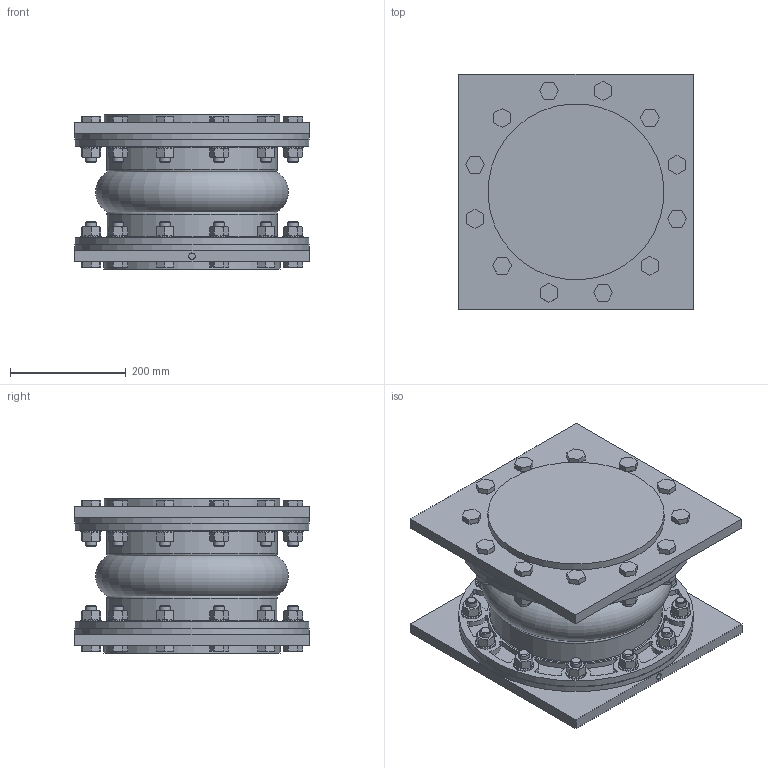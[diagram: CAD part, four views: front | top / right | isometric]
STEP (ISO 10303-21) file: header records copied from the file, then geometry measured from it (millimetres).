
FILE_DESCRIPTION(/* description */ (''),/* implementation_level */ '2;1');
FILE_NAME(/* name */ 'C:\Users\rramoutar\Desktop\New folder\451AS-10.stp',/* time_stamp */ '2016-01-15T14:25:50-05:00',/* author */ ('rramoutar'),/* organization */ ('Mason Industries Inc.'),/* preprocessor_version */ 'ST-DEVELOPER v15.6',/* originating_system */ 'Autodesk Inventor 2015',/* authorisation */ '');
FILE_SCHEMA (('CONFIG_CONTROL_DESIGN'));
Length unit declared in the file: inch
Products named in the file (1): 451AS-10 ASSEMBLY
Bounding box: 406.4 x 406.4 x 266.7 mm (x, y, z)
Volume: 15113985.8 mm3; surface area: 2776641.4 mm2
Topology: 80 solids, 82 shells, 1755 faces, 3951 edges, 2410 vertices
Faces by surface type: plane 705, cylinder 628, cone 384, torus 38
Full cylindrical faces by diameter (mm): 11.112 x1, 16.307 x24, 19.05 x32, 19.507 x24, 20.625 x24, 25.4 x217, 28.575 x24, 34.925 x24, 154.051 x1, 168.275 x1, 254 x2, 278.003 x2, 280.988 x2, 285.75 x2, 296.863 x2, 304.8 x2, 406.4 x4
Entity records: 47414 total; most frequent: CARTESIAN_POINT 9156, DIRECTION 7872, ORIENTED_EDGE 6674, AXIS2_PLACEMENT_3D 3369, EDGE_CURVE 3337, EDGE_LOOP 2598, VERTEX_POINT 2319, STYLED_ITEM 1835
